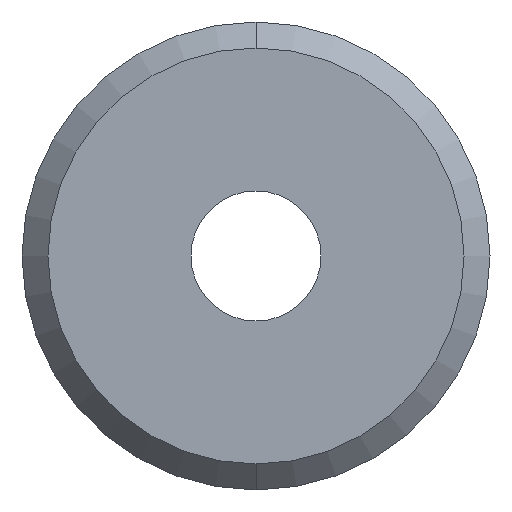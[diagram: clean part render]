
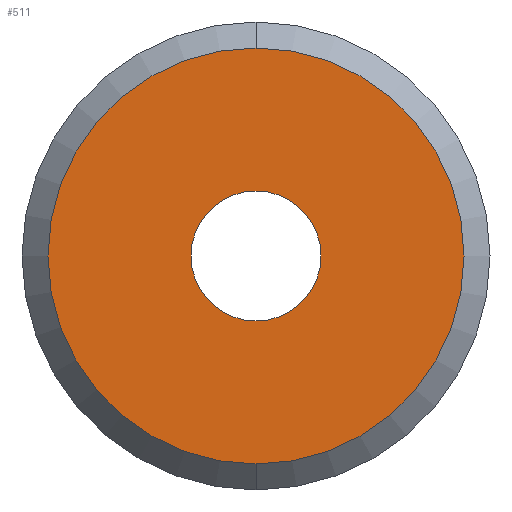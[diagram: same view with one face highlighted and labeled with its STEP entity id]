
A CAD part, front view. The second image highlights one B-rep face of the part: STEP entity #511.
In plain terms, the highlighted planar face has unit normal (0, -1, 0).
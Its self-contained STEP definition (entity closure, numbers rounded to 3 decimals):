
#114=CARTESIAN_POINT('',(14.231,-0.094,0.));
#115=DIRECTION('',(0.,1.,0.));
#116=DIRECTION('',(0.,0.,1.));
#117=AXIS2_PLACEMENT_3D('',#114,#115,#116);
#119=CARTESIAN_POINT('',(14.231,-0.094,0.));
#120=DIRECTION('',(0.,1.,0.));
#121=DIRECTION('',(0.,0.,-1.));
#122=AXIS2_PLACEMENT_3D('',#119,#120,#121);
#128=CARTESIAN_POINT('',(14.231,-0.094,0.));
#129=DIRECTION('',(0.,1.,0.));
#130=DIRECTION('',(0.,0.,-1.));
#131=AXIS2_PLACEMENT_3D('',#128,#129,#130);
#133=CARTESIAN_POINT('',(14.231,-0.094,0.));
#134=DIRECTION('',(0.,1.,0.));
#135=DIRECTION('',(0.,0.,1.));
#136=AXIS2_PLACEMENT_3D('',#133,#134,#135);
#270=CARTESIAN_POINT('',(14.231,-0.094,-0.25));
#271=CARTESIAN_POINT('',(14.231,-0.094,0.25));
#272=VERTEX_POINT('',#270);
#273=VERTEX_POINT('',#271);
#304=CARTESIAN_POINT('',(14.231,-0.094,0.8));
#305=CARTESIAN_POINT('',(14.231,-0.094,-0.8));
#306=VERTEX_POINT('',#304);
#307=VERTEX_POINT('',#305);
#496=CARTESIAN_POINT('',(14.231,-0.094,0.));
#497=DIRECTION('',(0.,1.,0.));
#498=DIRECTION('',(0.,0.,1.));
#499=AXIS2_PLACEMENT_3D('',#496,#497,#498);
#500=PLANE('',#499);
#502=ORIENTED_EDGE('',*,*,#501,.T.);
#504=ORIENTED_EDGE('',*,*,#503,.T.);
#505=EDGE_LOOP('',(#502,#504));
#506=FACE_OUTER_BOUND('',#505,.F.);
#507=ORIENTED_EDGE('',*,*,#489,.F.);
#508=ORIENTED_EDGE('',*,*,#476,.F.);
#509=EDGE_LOOP('',(#507,#508));
#510=FACE_BOUND('',#509,.F.);
#511=ADVANCED_FACE('',(#506,#510),#500,.F.);
#118=CIRCLE('',#117,0.25);
#123=CIRCLE('',#122,0.25);
#132=CIRCLE('',#131,0.8);
#137=CIRCLE('',#136,0.8);
#476=EDGE_CURVE('',#272,#273,#123,.T.);
#489=EDGE_CURVE('',#273,#272,#118,.T.);
#501=EDGE_CURVE('',#307,#306,#132,.T.);
#503=EDGE_CURVE('',#306,#307,#137,.T.);
